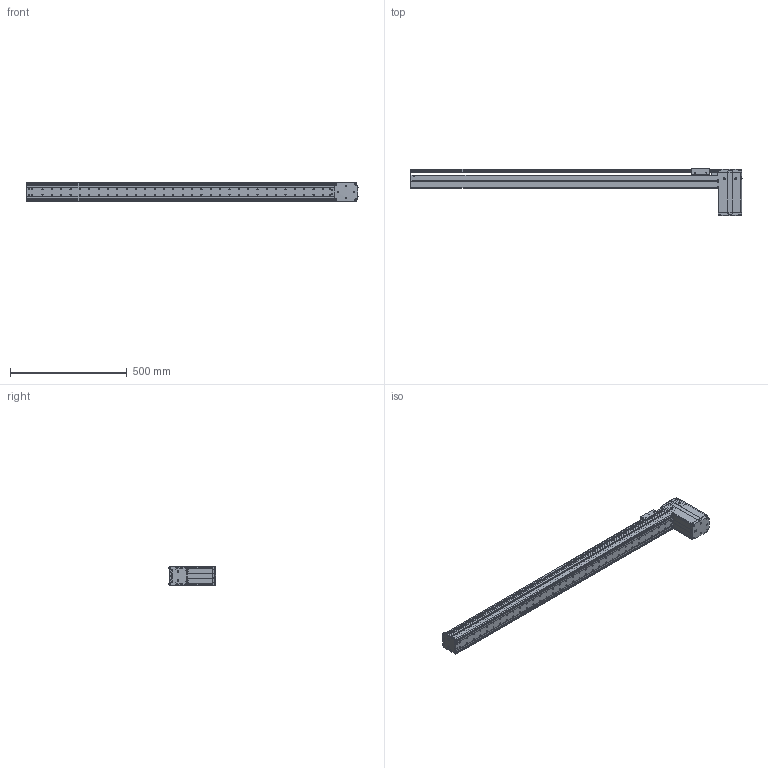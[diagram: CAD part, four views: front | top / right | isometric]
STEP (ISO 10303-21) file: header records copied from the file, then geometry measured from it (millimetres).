
FILE_DESCRIPTION((''),'2;1');
FILE_NAME('BE10_-BU-S_N-B5_IGS_PRT','2017-06-18T',(' '),(''),'PRO/ENGINEER BY PARAMETRIC TECHNOLOGY CORPORATION, 2015030','PRO/ENGINEER BY PARAMETRIC TECHNOLOGY CORPORATION, 2015030','');
FILE_SCHEMA(('CONFIG_CONTROL_DESIGN'));
Products named in the file (1): BE10_-BU-S_N-B5_IGS_PRT
Bounding box: 1420.8 x 202.72 x 78 mm (x, y, z)
Volume: 1992827.5 mm3; surface area: 1356900.3 mm2
Topology: 2 solids, 151 shells, 2166 faces, 5931 edges, 3919 vertices
Faces by surface type: plane 1052, cylinder 955, cone 103, sphere 28, torus 25, bspline 3
Entity records: 70693 total; most frequent: CARTESIAN_POINT 14468, DIRECTION 11929, ORIENTED_EDGE 11238, EDGE_CURVE 5877, AXIS2_PLACEMENT_3D 4285, VERTEX_POINT 3919, VECTOR 3359, LINE 3359
